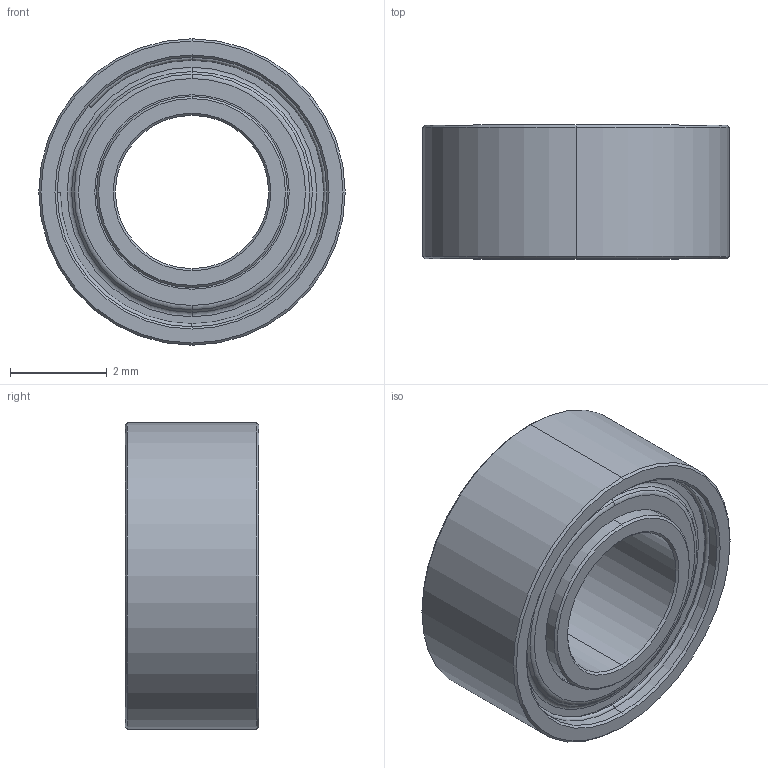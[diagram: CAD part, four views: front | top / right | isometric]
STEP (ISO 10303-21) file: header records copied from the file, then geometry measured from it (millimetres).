
FILE_DESCRIPTION (( 'STEP AP203' ), '1' );
FILE_NAME ('535010.STEP', '2016-10-07T18:54:05', ( '' ), ( '' ), 'SwSTEP 2.0', 'SolidWorks 2014', '' );
FILE_SCHEMA (( 'CONFIG_CONTROL_DESIGN' ));
Length unit declared in the file: inch
Products named in the file (1): 535010
Bounding box: 6.35 x 2.77 x 6.35 mm (x, y, z)
Volume: 58 mm3; surface area: 178 mm2
Topology: 3 solids, 3 shells, 76 faces, 148 edges, 88 vertices
Faces by surface type: cone 20, cylinder 20, torus 20, plane 16
Entity records: 2043 total; most frequent: DIRECTION 410, CARTESIAN_POINT 313, ORIENTED_EDGE 296, AXIS2_PLACEMENT_3D 185, EDGE_CURVE 148, CIRCLE 108, VERTEX_POINT 88, EDGE_LOOP 88
